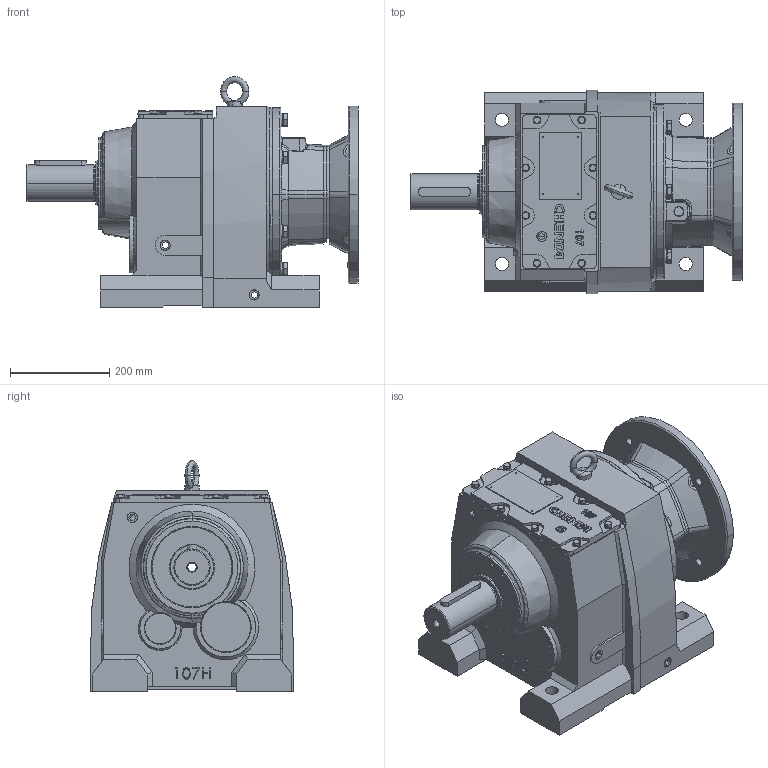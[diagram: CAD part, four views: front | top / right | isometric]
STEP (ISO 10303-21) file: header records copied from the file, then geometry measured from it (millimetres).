
FILE_DESCRIPTION (( 'STEP AP203' ), '1' );
FILE_NAME ('WINL107-324-6TC.STEP', '2013-09-26T10:13:10', ( 'User' ), ( 'Chenta' ), 'SwSTEP 2.0', 'SolidWorks 2011', '' );
FILE_SCHEMA (( 'CONFIG_CONTROL_DESIGN' ));
Length unit declared in the file: millimetre
Products named in the file (1): WINL107-324-6TC
Bounding box: 668 x 409 x 464.35 mm (x, y, z)
Surface area: 1510856.2 mm2 (no closed solid volume)
Topology: 0 solids, 59 shells, 1014 faces, 3085 edges, 2111 vertices
Faces by surface type: plane 545, cylinder 196, cone 128, bspline 97, torus 46, sphere 2
Entity records: 42303 total; most frequent: CARTESIAN_POINT 15631, ORIENTED_EDGE 5298, DIRECTION 5208, EDGE_CURVE 3085, VERTEX_POINT 2111, LINE 1768, VECTOR 1768, AXIS2_PLACEMENT_3D 1720
